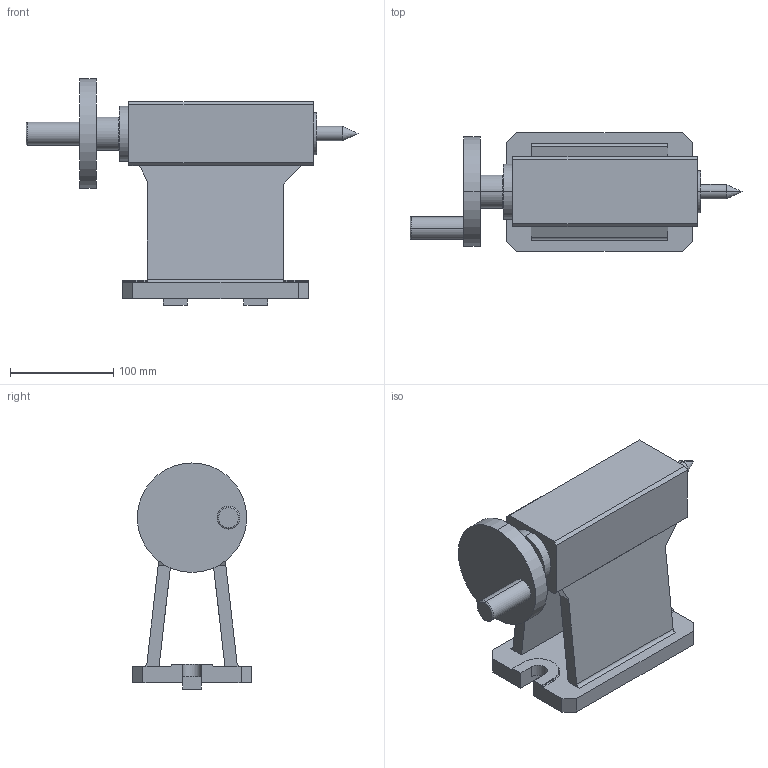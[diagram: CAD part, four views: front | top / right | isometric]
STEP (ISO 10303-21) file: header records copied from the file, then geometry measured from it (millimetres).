
FILE_DESCRIPTION (( 'STEP AP203' ), '1' );
FILE_NAME ('27061-1.STEP', '2021-03-24T23:06:23', ( '' ), ( '' ), 'SwSTEP 2.0', 'SolidWorks 2021', '' );
FILE_SCHEMA (( 'CONFIG_CONTROL_DESIGN' ));
Length unit declared in the file: inch
Products named in the file (4): 27061-1; M6-1x12 25B^27061-1; 27171^27061-1; 27061-1^27061-1
Assembly tree (5 placements, depth 2):
  27061-1
    27061-1^27061-1
    27171^27061-1  x2
    M6-1x12 25B^27061-1  x2
Bounding box: 321.5 x 115 x 219 mm (x, y, z)
Volume: 1637953.2 mm3; surface area: 201476.3 mm2
Topology: 5 solids, 5 shells, 139 faces, 332 edges, 216 vertices
Faces by surface type: plane 86, cylinder 46, torus 5, cone 2
Entity records: 3822 total; most frequent: DIRECTION 604, CARTESIAN_POINT 578, ORIENTED_EDGE 552, EDGE_CURVE 276, AXIS2_PLACEMENT_3D 206, VECTOR 192, LINE 192, VERTEX_POINT 180
